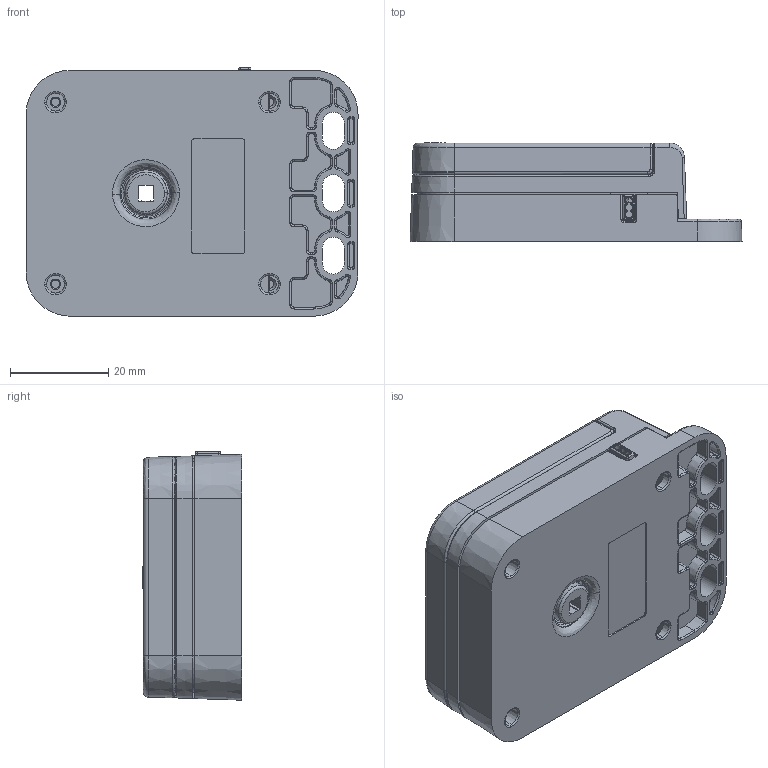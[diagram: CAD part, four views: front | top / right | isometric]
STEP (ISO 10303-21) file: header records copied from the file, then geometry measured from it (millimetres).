
FILE_DESCRIPTION (( 'STEP AP203' ), '1' );
FILE_NAME ('OPTICAL-SHAFT-ENCODER.STEP', '2007-08-26T00:38:06', ( 'Innovation First, Inc.' ), ( 'Innovation First, Inc.' ), 'SwSTEP 2.0', 'SolidWorks 2006052', '' );
FILE_SCHEMA (( 'CONFIG_CONTROL_DESIGN' ));
Length unit declared in the file: inch
Products named in the file (6): OPTICAL-SHAFT-ENCODER; SHAFT-ENCODER-WIRE-SLEEVE; SHAFT-ENCODER-WHEEL; SHAFT-ENCODER-TOP; SHAFT-ENCODER-MID; SHAFT-ENCODER-BOT
Assembly tree (5 placements, depth 2):
  OPTICAL-SHAFT-ENCODER
    SHAFT-ENCODER-TOP
    SHAFT-ENCODER-WHEEL
    SHAFT-ENCODER-WIRE-SLEEVE
    SHAFT-ENCODER-MID
    SHAFT-ENCODER-BOT
Bounding box: 67.5 x 20.2 x 50.5 mm (x, y, z)
Volume: 20891.3 mm3; surface area: 28682.5 mm2
Topology: 5 solids, 5 shells, 1480 faces, 4128 edges, 2656 vertices
Faces by surface type: plane 679, cylinder 491, bspline 179, cone 130, torus 1
Entity records: 54327 total; most frequent: CARTESIAN_POINT 15975, ORIENTED_EDGE 8200, DIRECTION 7588, EDGE_CURVE 4100, VERTEX_POINT 2656, AXIS2_PLACEMENT_3D 2574, LINE 2440, VECTOR 2440
